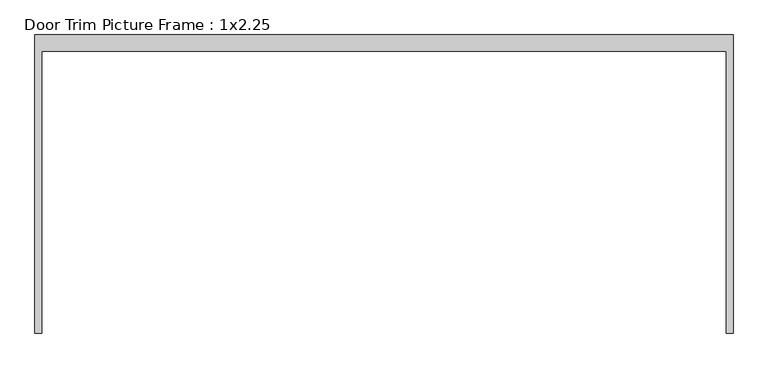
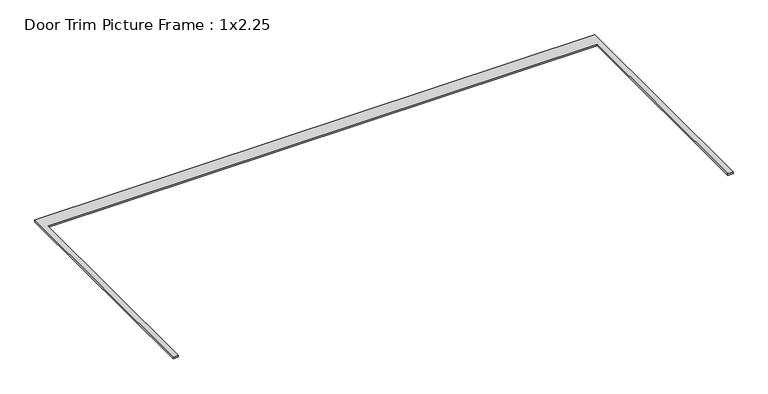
"""IFC4 building model written with IfcOpenShell, lengths in millimetres: proxy geometry, Door Trim Picture Frame : 1x2.25."""

from ifc_helpers import new_model, si_unit, origin, origin_with_axes, place, context, project, spatial, polyline, outline, extrude, source, transform, mapped, element, save


def door_trim_picture_frame_1x2_25_f5844e07(model_context):
    return source(origin(), model_context, "Body", "SweptSolid", [
        extrude(outline(polyline([(-2968.625, -2463.8), (-3025.775, -2463.8), (-3025.775, 120.65), (3025.775, 120.65), (3025.775, -2463.8), (2968.625, -2463.8), (2968.625, -19.05), (-2968.625, -19.05), (-2968.625, -2463.8)])), origin_with_axes(), (0.0, 0.0, 1.0), 19.05),
    ])


if __name__ == "__main__":
    model = new_model("IFC4")
    model_context = context("Model", 3, world=origin())
    ifc_project = project(units=[si_unit("LENGTHUNIT", "METRE", prefix="MILLI")], contexts=[model_context])
    site = spatial("IfcSite", under=ifc_project)
    building = spatial("IfcBuilding", under=site)
    placement = place(None, origin())
    door_trim_picture_frame_1x2_25_shape = door_trim_picture_frame_1x2_25_f5844e07(model_context)
    element("IfcBuildingElementProxy", 1, Name="Door Trim Picture Frame : 1x2.25", ObjectType="Door Trim Picture Frame : 1x2.25", at=placement, inside=building, context=model_context, shape_type="MappedRepresentation", body=[
        mapped(door_trim_picture_frame_1x2_25_shape, transform((0.0, 0.0, 0.0), x_axis=(1.0, 0.0, 0.0), y_axis=(0.0, 1.0, 0.0), z_axis=(0.0, 0.0, 1.0))),
    ])
    save(model, "model.ifc")
